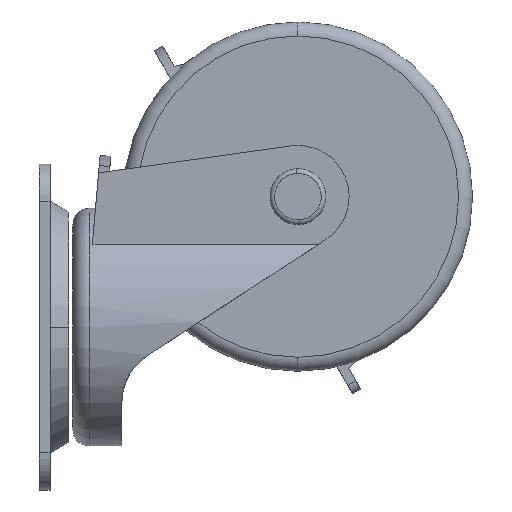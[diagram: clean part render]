
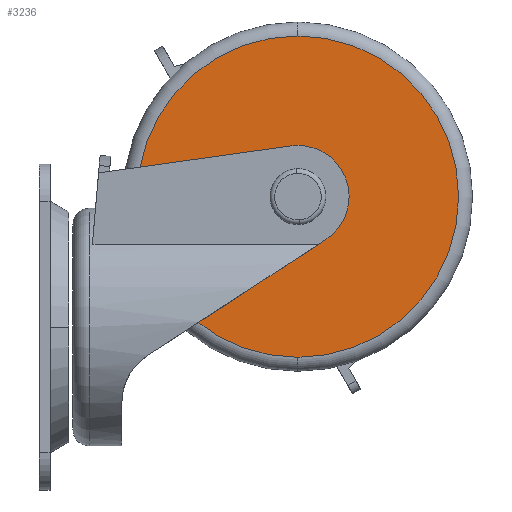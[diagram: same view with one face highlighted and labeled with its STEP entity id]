
A CAD part, left-side view. The second image highlights one B-rep face of the part: STEP entity #3236.
In plain terms, the highlighted planar face has unit normal (-1, 0, 0).
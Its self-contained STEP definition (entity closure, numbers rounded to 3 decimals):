
#127 = CIRCLE ( 'NONE', #789, 4.25 ) ;
#215 = CARTESIAN_POINT ( 'NONE',  ( -12.5, 0., 0. ) ) ;
#264 = DIRECTION ( 'NONE',  ( 0., 0., -1. ) ) ;
#581 = ORIENTED_EDGE ( 'NONE', *, *, #3872, .T. ) ;
#789 = AXIS2_PLACEMENT_3D ( 'NONE', #3437, #1568, #264 ) ;
#825 = VERTEX_POINT ( 'NONE', #1186 ) ;
#935 = DIRECTION ( 'NONE',  ( 1., 0., 0. ) ) ;
#1100 = CARTESIAN_POINT ( 'NONE',  ( -12.5, 0., 4.25 ) ) ;
#1186 = CARTESIAN_POINT ( 'NONE',  ( -12.5, 0., 34.5 ) ) ;
#1214 = VERTEX_POINT ( 'NONE', #3445 ) ;
#1247 = EDGE_CURVE ( 'NONE', #3033, #3950, #3344, .T. ) ;
#1270 = CARTESIAN_POINT ( 'NONE',  ( -12.5, 0., -4.25 ) ) ;
#1376 = FACE_OUTER_BOUND ( 'NONE', #3771, .T. ) ;
#1379 = CIRCLE ( 'NONE', #3701, 34.5 ) ;
#1397 = CARTESIAN_POINT ( 'NONE',  ( -12.5, 0., 0. ) ) ;
#1474 = DIRECTION ( 'NONE',  ( 0., 0., -1. ) ) ;
#1531 = ORIENTED_EDGE ( 'NONE', *, *, #1247, .T. ) ;
#1568 = DIRECTION ( 'NONE',  ( 1., 0., 0. ) ) ;
#1652 = DIRECTION ( 'NONE',  ( -1., 0., 0. ) ) ;
#1708 = DIRECTION ( 'NONE',  ( 0., 0., -1. ) ) ;
#1843 = DIRECTION ( 'NONE',  ( 0., 0., -1. ) ) ;
#1899 = EDGE_CURVE ( 'NONE', #825, #1214, #3526, .T. ) ;
#1930 = AXIS2_PLACEMENT_3D ( 'NONE', #3939, #1652, #2300 ) ;
#2041 = ORIENTED_EDGE ( 'NONE', *, *, #1899, .T. ) ;
#2245 = ORIENTED_EDGE ( 'NONE', *, *, #3567, .T. ) ;
#2300 = DIRECTION ( 'NONE',  ( 0., 0., -1. ) ) ;
#2388 = DIRECTION ( 'NONE',  ( -1., 0., 0. ) ) ;
#2420 = EDGE_LOOP ( 'NONE', ( #2245, #1531 ) ) ;
#2490 = AXIS2_PLACEMENT_3D ( 'NONE', #1397, #3921, #1708 ) ;
#2601 = AXIS2_PLACEMENT_3D ( 'NONE', #3489, #935, #1843 ) ;
#2641 = FACE_BOUND ( 'NONE', #2420, .T. ) ;
#3033 = VERTEX_POINT ( 'NONE', #1100 ) ;
#3236 = ADVANCED_FACE ( 'NONE', ( #2641, #1376 ), #3549, .F. ) ;
#3344 = CIRCLE ( 'NONE', #2601, 4.25 ) ;
#3437 = CARTESIAN_POINT ( 'NONE',  ( -12.5, 0., 0. ) ) ;
#3445 = CARTESIAN_POINT ( 'NONE',  ( -12.5, 0., -34.5 ) ) ;
#3489 = CARTESIAN_POINT ( 'NONE',  ( -12.5, 0., 0. ) ) ;
#3526 = CIRCLE ( 'NONE', #1930, 34.5 ) ;
#3549 = PLANE ( 'NONE',  #2490 ) ;
#3567 = EDGE_CURVE ( 'NONE', #3950, #3033, #127, .T. ) ;
#3701 = AXIS2_PLACEMENT_3D ( 'NONE', #215, #2388, #1474 ) ;
#3771 = EDGE_LOOP ( 'NONE', ( #581, #2041 ) ) ;
#3872 = EDGE_CURVE ( 'NONE', #1214, #825, #1379, .T. ) ;
#3921 = DIRECTION ( 'NONE',  ( 1., 0., 0. ) ) ;
#3939 = CARTESIAN_POINT ( 'NONE',  ( -12.5, 0., 0. ) ) ;
#3950 = VERTEX_POINT ( 'NONE', #1270 ) ;
